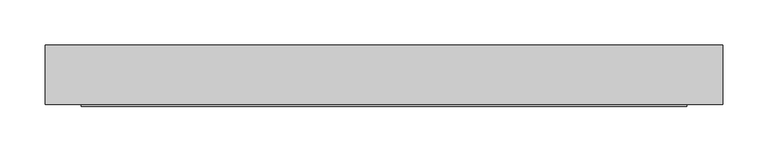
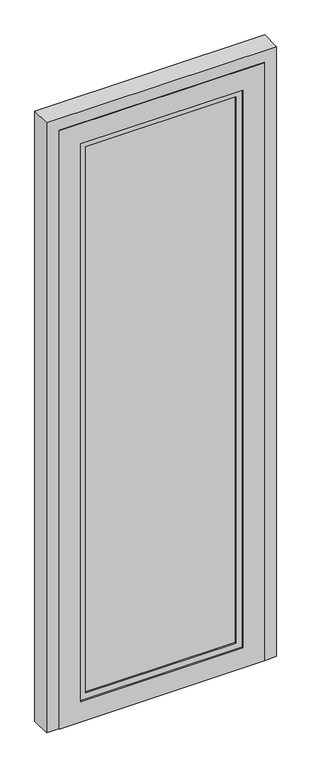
"""IFC4 building model written with IfcOpenShell, lengths in millimetres: plate geometry, ARQ-PA-IN-AluVid-Puerta : ARQ-PA-IN-AluVid-Puerta."""

from ifc_helpers import new_model, si_unit, frame, origin, place, context, project, spatial, polyline, outline, extrude, source, transform, mapped, element, save


def plate_9f408eec(model_context):
    return source(origin(), model_context, "Body", "SweptSolid", [
        extrude(outline(polyline([(2100.0, -375.0), (0.0, -375.0), (0.0, -335.0), (2060.0, -335.0), (2060.0, 335.0), (0.0, 335.0), (0.0, 375.0), (2100.0, 375.0), (2100.0, -375.0)])), frame((0.0, -33.0, 0.0), z_axis=(0.0, 1.0, 0.0), x_axis=(0.0, 0.0, 1.0)), (0.0, 0.0, 1.0), 66.0),
        extrude(outline(polyline([(245.0, -10.0), (245.0, -25.0), (-245.0, -25.0), (-245.0, -10.0), (245.0, -10.0)])), frame((0.0, 0.0, 90.0), z_axis=(0.0, 0.0, 1.0), x_axis=(1.0, 0.0, 0.0)), (0.0, 0.0, 1.0), 1880.0),
        extrude(outline(polyline([(1990.0, -265.0), (70.0, -265.0), (70.0, 265.0), (1990.0, 265.0), (1990.0, -265.0)]), holes=[polyline([(1970.0, -245.0), (1970.0, 245.0), (90.0, 245.0), (90.0, -245.0), (1970.0, -245.0)])]), frame((0.0, -30.0, 0.0), z_axis=(0.0, 1.0, 0.0), x_axis=(0.0, 0.0, 1.0)), (0.0, 0.0, 1.0), 25.0),
        extrude(outline(polyline([(2060.0, -335.0), (0.0, -335.0), (0.0, 335.0), (2060.0, 335.0), (2060.0, -335.0)]), holes=[polyline([(1990.0, -265.0), (1990.0, 265.0), (70.0, 265.0), (70.0, -265.0), (1990.0, -265.0)])]), frame((0.0, -35.0, 0.0), z_axis=(0.0, 1.0, 0.0), x_axis=(0.0, 0.0, 1.0)), (0.0, 0.0, 1.0), 35.0),
    ])


if __name__ == "__main__":
    model = new_model("IFC4")
    model_context = context("Model", 3, world=origin())
    ifc_project = project(units=[si_unit("LENGTHUNIT", "METRE", prefix="MILLI")], contexts=[model_context])
    site = spatial("IfcSite", under=ifc_project)
    building = spatial("IfcBuilding", under=site)
    placement = place(None, origin())
    plate_shape = plate_9f408eec(model_context)
    element("IfcPlate", 1, ObjectType="ARQ-PA-IN-AluVid-Puerta : ARQ-PA-IN-AluVid-Puerta", at=placement, inside=building, context=model_context, shape_type="MappedRepresentation", body=[
        mapped(plate_shape, transform((0.0, 0.0, 0.0), x_axis=(1.0, 0.0, 0.0), y_axis=(0.0, 1.0, 0.0), z_axis=(0.0, 0.0, 1.0))),
    ])
    save(model, "model.ifc")
